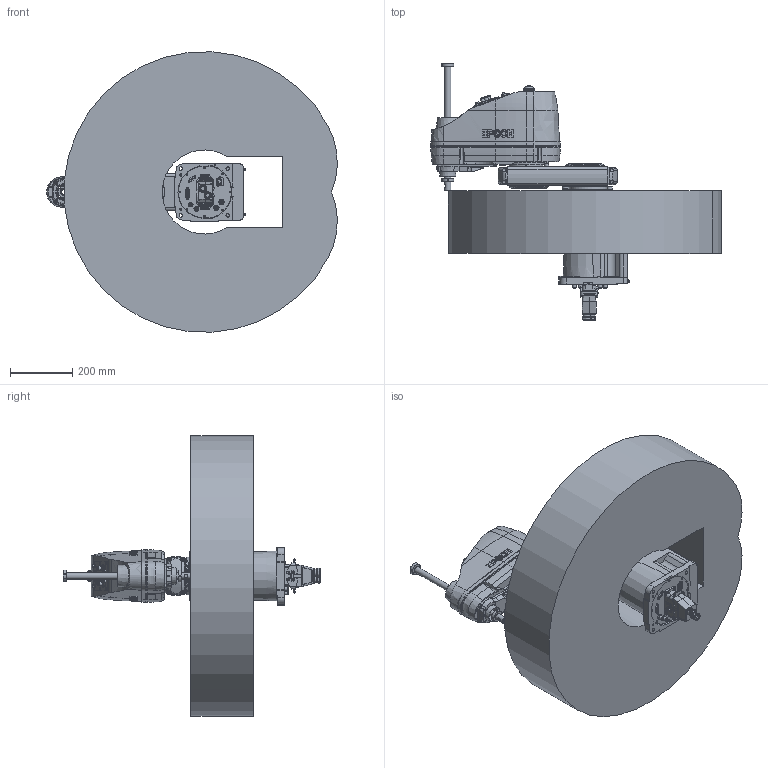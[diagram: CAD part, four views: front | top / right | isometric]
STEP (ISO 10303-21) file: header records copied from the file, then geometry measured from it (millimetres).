
FILE_DESCRIPTION( ( 'STEP AP214' ), '1' );
FILE_NAME( 'C:/Users/9607552/Desktop/GX8-B452SB_straight.stp', '2023-07-07T01:53:05', ( '' ), ( '' ), ' ', 'PARTsolutions', ' ' );
FILE_SCHEMA( ( 'AUTOMOTIVE_DESIGN { 1 0 10303 214 1 1 1 1 }' ) );
Length unit declared in the file: millimetre
Products named in the file (9): GX8-B452SB-SW; _B452SBbasegx8; _B452Sj1arm; _GX8-B452SBj1arm2; _GX8-B452SBj1arm1; _B452S_J2; _B452SZA; _Straight-B; _GX8-13-B_WS
Assembly tree (10 placements, depth 2):
  GX8-B452SB-SW
    _B452SBbasegx8
    _B452Sj1arm
    _GX8-B452SBj1arm2  x2
    _GX8-B452SBj1arm1  x2
    _B452S_J2
    _B452SZA
    _Straight-B
    _GX8-13-B_WS
Bounding box: 931.38 x 826.85 x 898.63 mm (x, y, z)
Volume: 130312755.6 mm3; surface area: 2942331.7 mm2
Topology: 10 solids, 11 shells, 2953 faces, 7258 edges, 4739 vertices
Faces by surface type: plane 1469, cylinder 934, cone 386, torus 121, bspline 37, sphere 6
Full cylindrical faces by diameter (mm): 1 x48, 1.18 x55, 2.459 x12, 3 x32, 3.242 x20, 3.3 x5, 3.9 x4, 4 x4, 4.2 x6, 4.5 x4, 4.8 x5, 4.917 x2, 5.34 x4, 5.5 x17, 6 x1, 6.2 x2, 6.647 x4, 6.8 x2, 7 x48, 8 x5, 8.5 x6, 9 x24, 10 x18, 11 x4, 11.2 x7, 11.5 x1, 12 x5, 12.25 x1, 13 x3, 13.2 x12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
Entity records: 105928 total; most frequent: CARTESIAN_POINT 20582, DIRECTION 12926, ORIENTED_EDGE 12084, EDGE_CURVE 6042, AXIS2_PLACEMENT_3D 5010, VERTEX_POINT 4338, EDGE_LOOP 3881, FACE_OUTER_BOUND 3242
